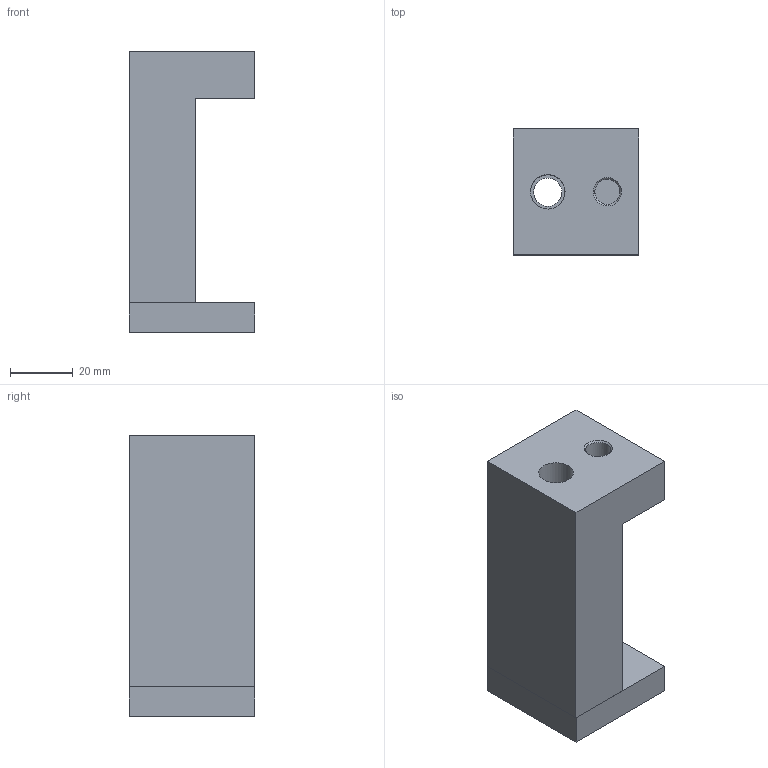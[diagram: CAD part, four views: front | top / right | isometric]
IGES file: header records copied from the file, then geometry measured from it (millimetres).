
Global section: file name: 08.80; native system: Autodesk Inventor 2019; preprocessor: unknown; author: CAD5; date: 20190612.150300; units: millimetre
Bounding box: 40 x 40 x 89.5 mm (x, y, z)
Volume: 84281 mm3; surface area: 22938.6 mm2
Topology: 4 solids, 4 shells, 58 faces, 156 edges, 110 vertices
Faces by surface type: bspline 58
